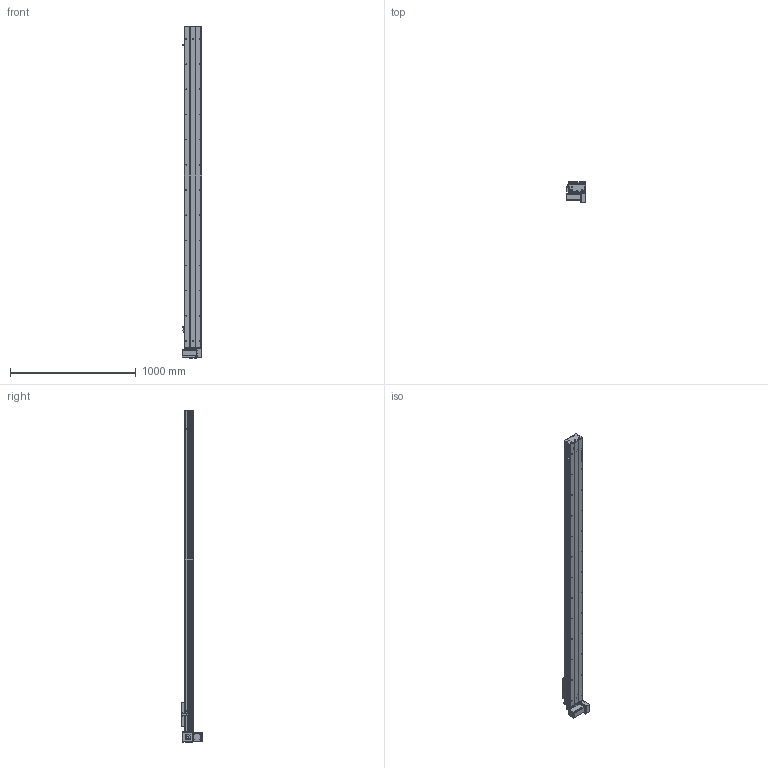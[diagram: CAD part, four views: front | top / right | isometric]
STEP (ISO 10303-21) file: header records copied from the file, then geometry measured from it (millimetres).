
FILE_DESCRIPTION (( 'STEP AP203' ), '1' );
FILE_NAME ('Y135CB-D90-S2250-BM-P400W.STEP', '2020-02-19T01:46:51', ( '微软用户' ), ( '微软中国' ), 'SwSTEP 2.0', 'SolidWorks 2017', '' );
FILE_SCHEMA (( 'CONFIG_CONTROL_DESIGN' ));
Length unit declared in the file: millimetre
Products named in the file (18): 0B-萇儂楊擘啣; Y10B--々湍喘謫眊--666; san松下电机400不带刹车----; 00B-俋欶BM--; 5CB --掛极耜裔啣-; Y10B-耜蚾蟀諉啣----; C-詩湍揤踡え-陔; Y135CB-耜裔; Y135CB-D90-S2250-BM-P400W; 135CB--詩湍-CE; 135CB---遴掛极.-; Y100-135俋离換覜ん--; 35CB---喘謫眊楊擘啣; Y135C-陔俋离換覜結え-; 0B-埴倛裔啣; 5C--俋欶; 0B-源倛裔啣; C-雄赽釱--
Assembly tree (21 placements, depth 2):
  Y135CB-D90-S2250-BM-P400W
    Y135CB-耜裔
    135CB---遴掛极.-
    35CB---喘謫眊楊擘啣
    0B-埴倛裔啣
    0B-源倛裔啣
    0B-萇儂楊擘啣
    san松下电机400不带刹车----
    5CB --掛极耜裔啣-  x2
    C-詩湍揤踡え-陔  x2
    135CB--詩湍-CE
    Y100-135俋离換覜ん--  x3
    Y135C-陔俋离換覜結え-
    5C--俋欶
    C-雄赽釱--
    Y10B--々湍喘謫眊--666
    00B-俋欶BM--
    Y10B-耜蚾蟀諉啣----
Bounding box: 157 x 163.3 x 2638 mm (x, y, z)
Volume: 7632648.7 mm3; surface area: 3019346.9 mm2
Topology: 21 solids, 21 shells, 969 faces, 2635 edges, 1746 vertices
Faces by surface type: cylinder 497, plane 456, cone 16
Entity records: 30561 total; most frequent: DIRECTION 5079, CARTESIAN_POINT 5076, ORIENTED_EDGE 4746, EDGE_CURVE 2373, AXIS2_PLACEMENT_3D 1861, VERTEX_POINT 1574, LINE 1357, VECTOR 1357
